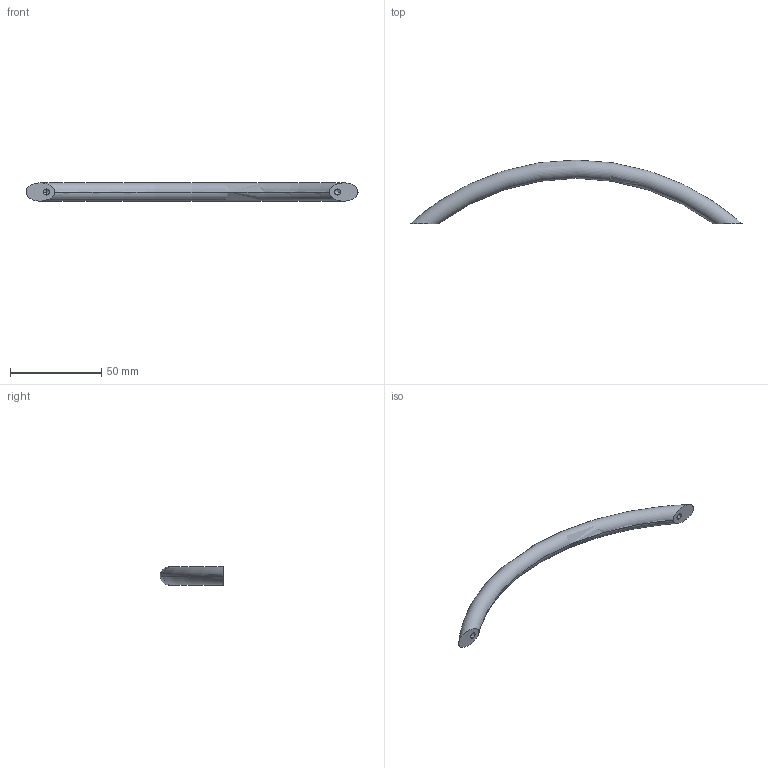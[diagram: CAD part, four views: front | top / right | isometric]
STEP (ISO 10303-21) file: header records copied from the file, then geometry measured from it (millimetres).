
FILE_DESCRIPTION (( 'STEP AP214' ), '1' );
FILE_NAME ('424.1-10-160-SR.step', '2020-02-13T13:54:09', ( '' ), ( '' ), 'SwSTEP 2.0', 'SolidWorks 2019', '' );
FILE_SCHEMA (( 'AUTOMOTIVE_DESIGN' ));
Length unit declared in the file: millimetre
Products named in the file (1): 424.1-10-160-SR
Bounding box: 182.15 x 35 x 10 mm (x, y, z)
Volume: 14066.4 mm3; surface area: 6082.8 mm2
Topology: 1 solids, 1 shells, 12 faces, 26 edges, 14 vertices
Faces by surface type: cylinder 4, cone 4, torus 2, plane 2
Entity records: 530 total; most frequent: CARTESIAN_POINT 209, DIRECTION 54, ORIENTED_EDGE 44, AXIS2_PLACEMENT_3D 23, EDGE_CURVE 22, EDGE_LOOP 14, VERTEX_POINT 14, FACE_OUTER_BOUND 12
